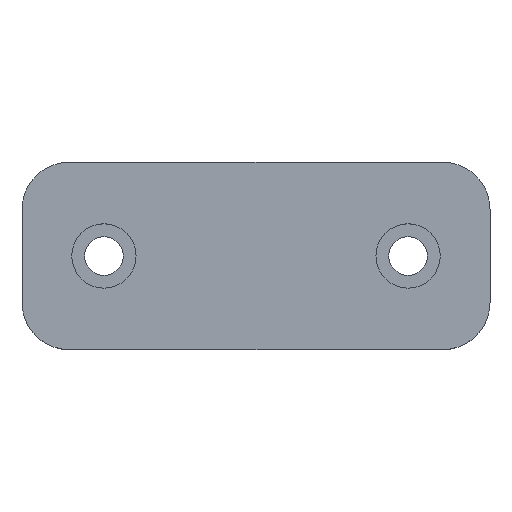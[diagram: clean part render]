
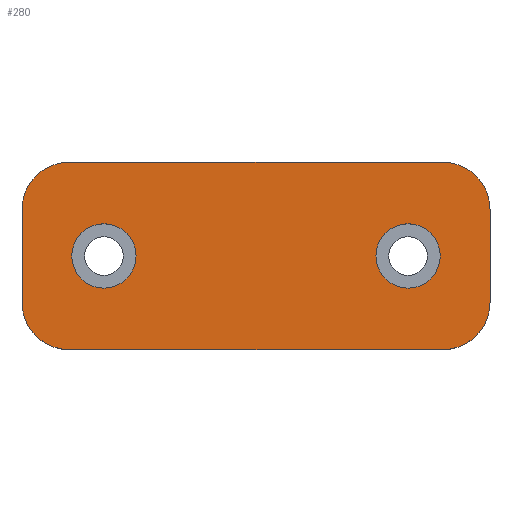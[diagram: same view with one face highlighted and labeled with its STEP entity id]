
A CAD part, top view. The second image highlights one B-rep face of the part: STEP entity #280.
In plain terms, the highlighted planar face has unit normal (0, 0, 1).
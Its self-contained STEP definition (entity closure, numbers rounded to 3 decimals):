
#25 = CARTESIAN_POINT ( 'NONE',  ( -26., 0., 12.1 ) ) ;
#26 = ORIENTED_EDGE ( 'NONE', *, *, #517, .T. ) ;
#32 = VECTOR ( 'NONE', #419, 1000. ) ;
#45 = CARTESIAN_POINT ( 'NONE',  ( -40., -8., 12.1 ) ) ;
#46 = VECTOR ( 'NONE', #95, 1000. ) ;
#49 = CIRCLE ( 'NONE', #190, 8. ) ;
#51 = ORIENTED_EDGE ( 'NONE', *, *, #454, .T. ) ;
#52 = ORIENTED_EDGE ( 'NONE', *, *, #826, .T. ) ;
#59 = VERTEX_POINT ( 'NONE', #277 ) ;
#69 = DIRECTION ( 'NONE',  ( 0., 0., 1. ) ) ;
#70 = DIRECTION ( 'NONE',  ( 1., 0., 0. ) ) ;
#72 = CARTESIAN_POINT ( 'NONE',  ( -32., 16., 12.1 ) ) ;
#75 = VERTEX_POINT ( 'NONE', #143 ) ;
#76 = CARTESIAN_POINT ( 'NONE',  ( 32., -16., 12.1 ) ) ;
#78 = CARTESIAN_POINT ( 'NONE',  ( -32., 8., 12.1 ) ) ;
#79 = FACE_BOUND ( 'NONE', #766, .T. ) ;
#87 = DIRECTION ( 'NONE',  ( 0., 0., 1. ) ) ;
#91 = CARTESIAN_POINT ( 'NONE',  ( -40., -8., 12.1 ) ) ;
#94 = CARTESIAN_POINT ( 'NONE',  ( -40., 8., 12.1 ) ) ;
#95 = DIRECTION ( 'NONE',  ( -1., 0., 0. ) ) ;
#97 = ORIENTED_EDGE ( 'NONE', *, *, #443, .F. ) ;
#110 = LINE ( 'NONE', #682, #46 ) ;
#111 = AXIS2_PLACEMENT_3D ( 'NONE', #410, #69, #212 ) ;
#142 = VERTEX_POINT ( 'NONE', #674 ) ;
#143 = CARTESIAN_POINT ( 'NONE',  ( 31.5, 0., 12.1 ) ) ;
#145 = EDGE_CURVE ( 'NONE', #180, #59, #472, .T. ) ;
#149 = VERTEX_POINT ( 'NONE', #665 ) ;
#162 = CARTESIAN_POINT ( 'NONE',  ( 40., -8., 12.1 ) ) ;
#166 = EDGE_CURVE ( 'NONE', #59, #149, #49, .T. ) ;
#167 = EDGE_CURVE ( 'NONE', #825, #420, #771, .T. ) ;
#168 = CARTESIAN_POINT ( 'NONE',  ( 32., 8., 12.1 ) ) ;
#175 = CIRCLE ( 'NONE', #540, 5.5 ) ;
#179 = VERTEX_POINT ( 'NONE', #91 ) ;
#180 = VERTEX_POINT ( 'NONE', #162 ) ;
#190 = AXIS2_PLACEMENT_3D ( 'NONE', #168, #556, #297 ) ;
#197 = ORIENTED_EDGE ( 'NONE', *, *, #167, .T. ) ;
#200 = CIRCLE ( 'NONE', #271, 8. ) ;
#212 = DIRECTION ( 'NONE',  ( 1., 0., 0. ) ) ;
#222 = DIRECTION ( 'NONE',  ( 0., 0., 1. ) ) ;
#223 = VERTEX_POINT ( 'NONE', #94 ) ;
#232 = AXIS2_PLACEMENT_3D ( 'NONE', #265, #716, #339 ) ;
#241 = EDGE_LOOP ( 'NONE', ( #257, #289 ) ) ;
#244 = DIRECTION ( 'NONE',  ( 1., 0., 0. ) ) ;
#245 = VECTOR ( 'NONE', #648, 1000. ) ;
#257 = ORIENTED_EDGE ( 'NONE', *, *, #740, .F. ) ;
#258 = CARTESIAN_POINT ( 'NONE',  ( 26., 0., 12.1 ) ) ;
#265 = CARTESIAN_POINT ( 'NONE',  ( -32., -8., 12.1 ) ) ;
#271 = AXIS2_PLACEMENT_3D ( 'NONE', #78, #789, #404 ) ;
#277 = CARTESIAN_POINT ( 'NONE',  ( 40., 8., 12.1 ) ) ;
#280 = ADVANCED_FACE ( 'NONE', ( #79, #752, #714 ), #287, .T. ) ;
#287 = PLANE ( 'NONE',  #332 ) ;
#289 = ORIENTED_EDGE ( 'NONE', *, *, #672, .F. ) ;
#297 = DIRECTION ( 'NONE',  ( 1., 0., 0. ) ) ;
#304 = CARTESIAN_POINT ( 'NONE',  ( 32., -8., 12.1 ) ) ;
#305 = CARTESIAN_POINT ( 'NONE',  ( 20.5, 0., 12.1 ) ) ;
#318 = CIRCLE ( 'NONE', #111, 5.5 ) ;
#332 = AXIS2_PLACEMENT_3D ( 'NONE', #673, #542, #244 ) ;
#339 = DIRECTION ( 'NONE',  ( -1., 0., 0. ) ) ;
#398 = AXIS2_PLACEMENT_3D ( 'NONE', #304, #440, #444 ) ;
#404 = DIRECTION ( 'NONE',  ( 1., 0., 0. ) ) ;
#410 = CARTESIAN_POINT ( 'NONE',  ( 26., 0., 12.1 ) ) ;
#419 = DIRECTION ( 'NONE',  ( 0., 1., 0. ) ) ;
#420 = VERTEX_POINT ( 'NONE', #532 ) ;
#428 = AXIS2_PLACEMENT_3D ( 'NONE', #25, #87, #615 ) ;
#434 = EDGE_CURVE ( 'NONE', #179, #825, #806, .T. ) ;
#440 = DIRECTION ( 'NONE',  ( 0., 0., 1. ) ) ;
#443 = EDGE_CURVE ( 'NONE', #689, #75, #175, .T. ) ;
#444 = DIRECTION ( 'NONE',  ( 1., 0., 0. ) ) ;
#454 = EDGE_CURVE ( 'NONE', #578, #223, #200, .T. ) ;
#456 = ORIENTED_EDGE ( 'NONE', *, *, #434, .T. ) ;
#472 = LINE ( 'NONE', #549, #32 ) ;
#475 = DIRECTION ( 'NONE',  ( 1., 0., 0. ) ) ;
#502 = VERTEX_POINT ( 'NONE', #537 ) ;
#505 = LINE ( 'NONE', #45, #245 ) ;
#517 = EDGE_CURVE ( 'NONE', #223, #179, #505, .T. ) ;
#532 = CARTESIAN_POINT ( 'NONE',  ( 32., -16., 12.1 ) ) ;
#533 = CIRCLE ( 'NONE', #428, 5.5 ) ;
#537 = CARTESIAN_POINT ( 'NONE',  ( -31.5, 0., 12.1 ) ) ;
#538 = ORIENTED_EDGE ( 'NONE', *, *, #145, .T. ) ;
#540 = AXIS2_PLACEMENT_3D ( 'NONE', #258, #598, #70 ) ;
#542 = DIRECTION ( 'NONE',  ( 0., 0., 1. ) ) ;
#544 = CIRCLE ( 'NONE', #398, 8. ) ;
#549 = CARTESIAN_POINT ( 'NONE',  ( 40., -8., 12.1 ) ) ;
#556 = DIRECTION ( 'NONE',  ( 0., 0., 1. ) ) ;
#560 = CARTESIAN_POINT ( 'NONE',  ( -26., 0., 12.1 ) ) ;
#576 = EDGE_CURVE ( 'NONE', #75, #689, #318, .T. ) ;
#578 = VERTEX_POINT ( 'NONE', #72 ) ;
#598 = DIRECTION ( 'NONE',  ( 0., 0., 1. ) ) ;
#603 = VECTOR ( 'NONE', #475, 1000. ) ;
#610 = AXIS2_PLACEMENT_3D ( 'NONE', #560, #222, #736 ) ;
#615 = DIRECTION ( 'NONE',  ( 1., 0., 0. ) ) ;
#648 = DIRECTION ( 'NONE',  ( 0., -1., 0. ) ) ;
#665 = CARTESIAN_POINT ( 'NONE',  ( 32., 16., 12.1 ) ) ;
#672 = EDGE_CURVE ( 'NONE', #502, #142, #533, .T. ) ;
#673 = CARTESIAN_POINT ( 'NONE',  ( 32., 8., 12.1 ) ) ;
#674 = CARTESIAN_POINT ( 'NONE',  ( -20.5, 0., 12.1 ) ) ;
#682 = CARTESIAN_POINT ( 'NONE',  ( 32., 16., 12.1 ) ) ;
#689 = VERTEX_POINT ( 'NONE', #305 ) ;
#714 = FACE_OUTER_BOUND ( 'NONE', #763, .T. ) ;
#716 = DIRECTION ( 'NONE',  ( 0., 0., 1. ) ) ;
#721 = ORIENTED_EDGE ( 'NONE', *, *, #576, .F. ) ;
#723 = EDGE_CURVE ( 'NONE', #149, #578, #110, .T. ) ;
#724 = CIRCLE ( 'NONE', #610, 5.5 ) ;
#736 = DIRECTION ( 'NONE',  ( 1., 0., 0. ) ) ;
#740 = EDGE_CURVE ( 'NONE', #142, #502, #724, .T. ) ;
#752 = FACE_BOUND ( 'NONE', #241, .T. ) ;
#758 = CARTESIAN_POINT ( 'NONE',  ( -32., -16., 12.1 ) ) ;
#763 = EDGE_LOOP ( 'NONE', ( #790, #777, #51, #26, #456, #197, #52, #538 ) ) ;
#766 = EDGE_LOOP ( 'NONE', ( #721, #97 ) ) ;
#771 = LINE ( 'NONE', #76, #603 ) ;
#777 = ORIENTED_EDGE ( 'NONE', *, *, #723, .T. ) ;
#789 = DIRECTION ( 'NONE',  ( 0., 0., 1. ) ) ;
#790 = ORIENTED_EDGE ( 'NONE', *, *, #166, .T. ) ;
#806 = CIRCLE ( 'NONE', #232, 8. ) ;
#825 = VERTEX_POINT ( 'NONE', #758 ) ;
#826 = EDGE_CURVE ( 'NONE', #420, #180, #544, .T. ) ;
